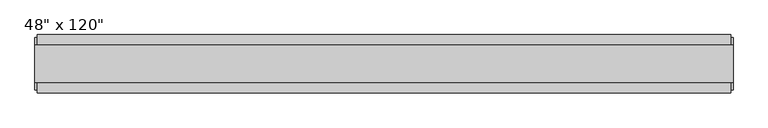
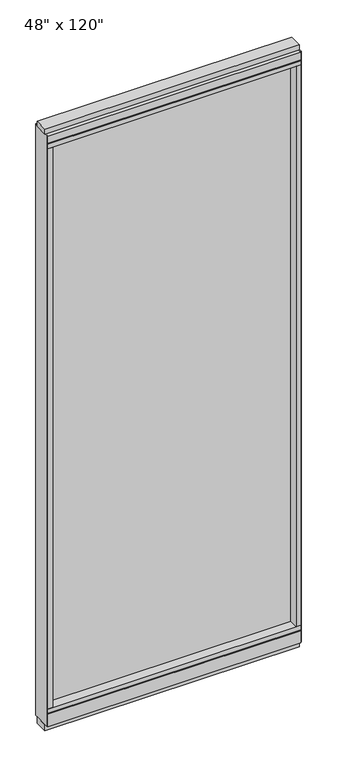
"""IFC4 building model written with IfcOpenShell, lengths in millimetres: furniture geometry."""

import ifcopenshell
import ifcopenshell.guid

model = None  # the IFC model being written
_history = None  # IfcOwnerHistory: only IFC2X3 demands one
_inside = {}  # id of a spatial element -> (the spatial element, [elements in it])
_under = {}  # id of a project, library or spatial element -> (it, [spatial elements below it])
_declared = {}  # id of a project -> (the project, [libraries it declares])
_typed = {}  # id of a type object -> (the type object, [elements of that type])
_made_of = {}  # id of a material, layer set ... -> (it, [elements and type objects made of it])


def new_model(schema):
    """Start an empty IFC model of exactly this schema.

    Asked for "IFC4X3", IfcOpenShell would pick the latest addendum, in which some entities
    have other attributes; the version numbers below select the first issue.
    IFC2X3 requires an IfcOwnerHistory on every rooted entity: one is made here for all.
    """
    global model, _history
    if schema == "IFC4X3":
        model = ifcopenshell.file(schema_version=(4, 3, 0, 0))
    else:
        model = ifcopenshell.file(schema=schema)
    _inside.clear()
    _under.clear()
    _declared.clear()
    _typed.clear()
    _made_of.clear()
    _history = None
    if model.schema == "IFC2X3":
        org = make("IfcOrganization", Name="unknown")
        user = make(
            "IfcPersonAndOrganization",
            ThePerson=make("IfcPerson", FamilyName="unknown"),
            TheOrganization=org,
        )
        app = make(
            "IfcApplication",
            ApplicationDeveloper=org,
            Version="unknown",
            ApplicationFullName="unknown",
            ApplicationIdentifier="unknown",
        )
        _history = make(
            "IfcOwnerHistory",
            OwningUser=user,
            OwningApplication=app,
            ChangeAction="ADDED",
            CreationDate=0,
        )
    return model


def make(cls, **values):
    """One entity of the class cls with the attributes given. An attribute that is None is left unset."""
    return model.create_entity(
        cls, **{name: value for name, value in values.items() if value is not None}
    )


def rooted(cls, **values):
    """An entity with a GlobalId (a new one), such as an element, a storey or a relation."""
    return make(cls, GlobalId=ifcopenshell.guid.new(), OwnerHistory=_history, **values)


def si_unit(unit_type, name, prefix=None):
    """IfcSIUnit, for example si_unit("LENGTHUNIT", "METRE", prefix="MILLI")."""
    return make("IfcSIUnit", UnitType=unit_type, Prefix=prefix, Name=name)


def assignment(units):
    """IfcUnitAssignment: the units of a project."""
    return None if units is None else make("IfcUnitAssignment", Units=units)


def point(xyz):
    """IfcCartesianPoint."""
    return None if xyz is None else make("IfcCartesianPoint", Coordinates=xyz)


def direction(xyz):
    """IfcDirection."""
    return None if xyz is None else make("IfcDirection", DirectionRatios=xyz)


def frame(location, z_axis=None, x_axis=None):
    """IfcAxis2Placement3D, a coordinate frame: its origin and axes. An axis left out is left unset."""
    return make(
        "IfcAxis2Placement3D",
        Location=point(location),
        Axis=direction(z_axis),
        RefDirection=direction(x_axis),
    )


def origin():
    """The frame at (0, 0, 0) with its axes left unset."""
    return frame((0.0, 0.0, 0.0))


def origin_with_axes():
    """The frame at (0, 0, 0) with the z axis (0, 0, 1) and the x axis (1, 0, 0) written out."""
    return frame((0.0, 0.0, 0.0), z_axis=(0.0, 0.0, 1.0), x_axis=(1.0, 0.0, 0.0))


def place(relative_to, where):
    """IfcLocalPlacement: puts the frame where relative to a parent placement (None: the world)."""
    return make(
        "IfcLocalPlacement", PlacementRelTo=relative_to, RelativePlacement=where
    )


def context(
    kind, dimensions, precision=None, world=None, true_north=None, identifier=None
):
    """IfcGeometricRepresentationContext, for example the 3D "Model" context."""
    return make(
        "IfcGeometricRepresentationContext",
        ContextIdentifier=identifier,
        ContextType=kind,
        CoordinateSpaceDimension=dimensions,
        Precision=precision,
        WorldCoordinateSystem=world,
        TrueNorth=true_north,
    )


def project(units=None, contexts=None):
    """IfcProject with its units and contexts."""
    return rooted(
        "IfcProject",
        Name="project",
        RepresentationContexts=contexts,
        UnitsInContext=assignment(units),
    )


def spatial(cls, under=None, at=None, **own):
    """A site, building, storey or space (cls), placed at a placement, below another one or the project."""
    s = rooted(cls, ObjectPlacement=at, **own)
    if under is not None:
        _under.setdefault(under.id(), (under, []))[1].append(s)
    return s


def polyline(points):
    """IfcPolyline through the points."""
    return make("IfcPolyline", Points=[point(p) for p in points])


def outline(outer, holes=None, kind="AREA"):
    """IfcArbitraryClosedProfileDef: a profile drawn as a closed curve; with holes, ...WithVoids."""
    if holes is None:
        return make("IfcArbitraryClosedProfileDef", ProfileType=kind, OuterCurve=outer)
    return make(
        "IfcArbitraryProfileDefWithVoids",
        ProfileType=kind,
        OuterCurve=outer,
        InnerCurves=holes,
    )


def extrude(swept, where, along, depth):
    """IfcExtrudedAreaSolid: the profile swept, set in the frame where, extruded along a direction by depth."""
    return make(
        "IfcExtrudedAreaSolid",
        SweptArea=swept,
        Position=where,
        ExtrudedDirection=direction(along),
        Depth=depth,
    )


def shape(context_of_items, identifier, shape_type, items):
    """IfcShapeRepresentation: the items that make up one representation, for example the "Body"."""
    return make(
        "IfcShapeRepresentation",
        ContextOfItems=context_of_items,
        RepresentationIdentifier=identifier,
        RepresentationType=shape_type,
        Items=items,
    )


def source(mapping_origin, context_of_items, identifier, shape_type, items):
    """IfcRepresentationMap: a shape defined once, which mapped items show again and again."""
    return make(
        "IfcRepresentationMap",
        MappingOrigin=mapping_origin,
        MappedRepresentation=shape(context_of_items, identifier, shape_type, items),
    )


def transform(
    local_origin,
    x_axis=None,
    y_axis=None,
    z_axis=None,
    scale=None,
    scale2=None,
    scale3=None,
    uniform=True,
):
    """IfcCartesianTransformationOperator3D, or its non-uniform kind. x_axis, y_axis, z_axis: its Axis1, 2, 3."""
    if uniform:
        return make(
            "IfcCartesianTransformationOperator3D",
            Axis1=direction(x_axis),
            Axis2=direction(y_axis),
            LocalOrigin=point(local_origin),
            Scale=scale,
            Axis3=direction(z_axis),
        )
    return make(
        "IfcCartesianTransformationOperator3DnonUniform",
        Axis1=direction(x_axis),
        Axis2=direction(y_axis),
        LocalOrigin=point(local_origin),
        Scale=scale,
        Axis3=direction(z_axis),
        Scale2=scale2,
        Scale3=scale3,
    )


def mapped(mapping_source, mapping_target):
    """IfcMappedItem: shows the shape of a source again, moved by a transform."""
    return make(
        "IfcMappedItem", MappingSource=mapping_source, MappingTarget=mapping_target
    )


def made_of(thing, what):
    """Note that an element or type object is made of a material, layer set ...; save() writes the relation."""
    if what is not None:
        _made_of.setdefault(what.id(), (what, []))[1].append(thing)
    return thing


def element(
    cls,
    number,
    at=None,
    inside=None,
    cuts=None,
    type_object=None,
    material=None,
    context=None,
    identifier="Body",
    shape_type=None,
    held_by="IfcProductDefinitionShape",
    body=None,
    shapes=None,
    **own,
):
    """One element of the class cls, such as IfcWall. Its Tag is "e" and its number.

    at: its placement. inside: the storey or other place that contains it. cuts: it is an
    opening in that element (IfcRelVoidsElement). A single representation is given by context,
    identifier, shape_type and body (its items); several are given by shapes. held_by: the class
    of the entity that holds the representations. save() writes the other relations.
    """
    e = rooted(cls, Tag="e%d" % number, ObjectPlacement=at, **own)
    if body is not None:
        shapes = [shape(context, identifier, shape_type, body)]
    if shapes is not None:
        e.Representation = make(held_by, Representations=shapes)
    if inside is not None:
        _inside.setdefault(inside.id(), (inside, []))[1].append(e)
    if cuts is not None:
        rooted(
            "IfcRelVoidsElement", RelatingBuildingElement=cuts, RelatedOpeningElement=e
        )
    if type_object is not None:
        _typed.setdefault(type_object.id(), (type_object, []))[1].append(e)
    return made_of(e, material)


def aggregate(whole, parts):
    """IfcRelAggregates: a whole, such as a stair, and the parts it consists of."""
    return rooted("IfcRelAggregates", RelatingObject=whole, RelatedObjects=parts)


def save(model, path):
    """Write the relations noted so far, then the file.

    IfcRelAggregates (storeys below a building ...), IfcRelContainedInSpatialStructure (elements
    in a storey), IfcRelDefinesByType, IfcRelAssociatesMaterial and IfcRelDeclares: one each for
    every whole, place, type object, material and project.
    """
    for whole, parts in _under.values():
        aggregate(whole, parts)
    for where, things in _inside.values():
        rooted(
            "IfcRelContainedInSpatialStructure",
            RelatedElements=things,
            RelatingStructure=where,
        )
    for kind, things in _typed.values():
        rooted("IfcRelDefinesByType", RelatedObjects=things, RelatingType=kind)
    for what, things in _made_of.values():
        rooted("IfcRelAssociatesMaterial", RelatedObjects=things, RelatingMaterial=what)
    for by, libraries in _declared.values():
        rooted("IfcRelDeclares", RelatingContext=by, RelatedDefinitions=libraries)
    model.write(path)


def furniture_a3373b54(model_context):
    return source(origin(), model_context, "Body", "SweptSolid", [
        extrude(outline(polyline([(523.4014771, -9.5977216), (-643.4745229, -9.5977216), (-643.4745229, 0.5622784), (523.4014771, 0.5622784), (523.4014771, -9.5977216)])), frame((0.0, 0.0, 120.523), z_axis=(0.0, 0.0, 1.0), x_axis=(1.0, 0.0, 0.0)), (0.0, 0.0, 1.0), 2838.577),
        extrude(outline(polyline([(-55.3177216, 93.345), (-50.3647216, 93.345), (-50.3647216, 98.298), (41.3292784, 98.298), (41.3292784, 93.345), (46.2822784, 93.345), (46.2822784, 31.75), (-55.3177216, 31.75), (-55.3177216, 93.345)])), frame((-665.6995229, 0.0, 0.0), z_axis=(1.0, 0.0, 0.0), x_axis=(0.0, 1.0, 0.0)), (0.0, 0.0, 1.0), 1211.326),
        extrude(outline(polyline([(-665.6995229, -55.3177216), (-665.6995229, 46.2822784), (545.6264771, 46.2822784), (545.6264771, -55.3177216), (-665.6995229, -55.3177216)])), frame((0.0, 0.0, 98.298), z_axis=(0.0, 0.0, 1.0), x_axis=(1.0, 0.0, 0.0)), (0.0, 0.0, 1.0), 22.225),
        extrude(outline(polyline([(549.5634771, 27.9942784), (549.5634771, -37.0297216), (-669.6365229, -37.0297216), (-669.6365229, 27.9942784), (549.5634771, 27.9942784)])), origin_with_axes(), (0.0, 0.0, 1.0), 31.75),
        extrude(outline(polyline([(-669.6365229, -37.0297216), (-669.6365229, 27.9942784), (549.5634771, 27.9942784), (549.5634771, -37.0297216), (-669.6365229, -37.0297216)])), frame((0.0, 0.0, 3022.6), z_axis=(0.0, 0.0, 1.0), x_axis=(1.0, 0.0, 0.0)), (0.0, 0.0, 1.0), 25.4),
        extrude(outline(polyline([(-55.3177216, 2986.278), (-55.3177216, 3022.6), (46.2822784, 3022.6), (46.2822784, 2986.278), (41.3292784, 2986.278), (41.3292784, 2981.325), (-50.3647216, 2981.325), (-50.3647216, 2986.278), (-55.3177216, 2986.278)])), frame((-665.6995229, 0.0, 0.0), z_axis=(1.0, 0.0, 0.0), x_axis=(0.0, 1.0, 0.0)), (0.0, 0.0, 1.0), 1211.326),
        extrude(outline(polyline([(545.6264771, 46.2822784), (545.6264771, -55.3177216), (-665.6995229, -55.3177216), (-665.6995229, 46.2822784), (545.6264771, 46.2822784)])), frame((0.0, 0.0, 2959.1), z_axis=(0.0, 0.0, 1.0), x_axis=(1.0, 0.0, 0.0)), (0.0, 0.0, 1.0), 22.225),
        extrude(outline(polyline([(523.4014771, -55.3177216), (523.4014771, 46.2822784), (545.6264771, 46.2822784), (545.6264771, -55.3177216), (523.4014771, -55.3177216)])), frame((0.0, 0.0, 120.523), z_axis=(0.0, 0.0, 1.0), x_axis=(1.0, 0.0, 0.0)), (0.0, 0.0, 1.0), 2838.577),
        extrude(outline(polyline([(-643.4745229, -55.3177216), (-665.6995229, -55.3177216), (-665.6995229, 46.2822784), (-643.4745229, 46.2822784), (-643.4745229, -55.3177216)])), frame((0.0, 0.0, 120.523), z_axis=(0.0, 0.0, 1.0), x_axis=(1.0, 0.0, 0.0)), (0.0, 0.0, 1.0), 2838.577),
        extrude(outline(polyline([(549.5634771, -50.3647216), (545.6264771, -50.3647216), (545.6264771, 41.3292784), (549.5634771, 41.3292784), (549.5634771, -50.3647216)])), frame((0.0, 0.0, 31.75), z_axis=(0.0, 0.0, 1.0), x_axis=(1.0, 0.0, 0.0)), (0.0, 0.0, 1.0), 2990.85),
        extrude(outline(polyline([(-669.6365229, -50.3647216), (-669.6365229, 41.3292784), (-665.6995229, 41.3292784), (-665.6995229, -50.3647216), (-669.6365229, -50.3647216)])), frame((0.0, 0.0, 31.75), z_axis=(0.0, 0.0, 1.0), x_axis=(1.0, 0.0, 0.0)), (0.0, 0.0, 1.0), 2990.85),
    ])


if __name__ == "__main__":
    model = new_model("IFC4")
    model_context = context("Model", 3, world=origin())
    ifc_project = project(units=[si_unit("LENGTHUNIT", "METRE", prefix="MILLI")], contexts=[model_context])
    site = spatial("IfcSite", under=ifc_project)
    building = spatial("IfcBuilding", under=site)
    placement = place(None, origin())
    furniture_shape = furniture_a3373b54(model_context)
    element("IfcFurniture", 1, ObjectType="Haworth_Enclose_Wall_Glass : 48\" x 120\"", at=placement, inside=building, context=model_context, shape_type="MappedRepresentation", body=[
        mapped(furniture_shape, transform((0.0, 0.0, 0.0), x_axis=(1.0, 0.0, 0.0), y_axis=(0.0, 1.0, 0.0), z_axis=(0.0, 0.0, 1.0))),
    ])
    save(model, "model.ifc")
